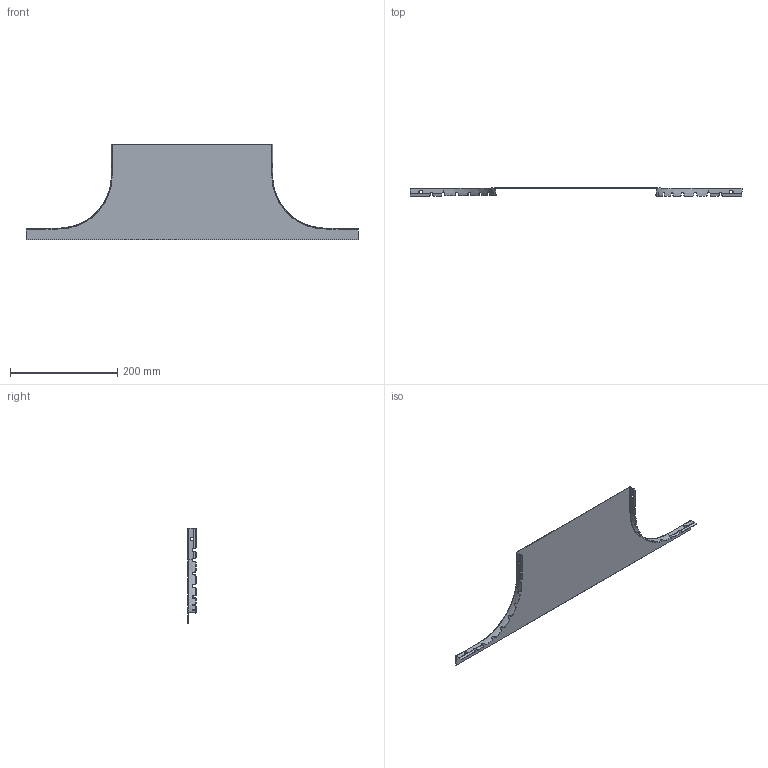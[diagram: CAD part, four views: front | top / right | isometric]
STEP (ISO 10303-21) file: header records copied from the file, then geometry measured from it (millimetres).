
FILE_DESCRIPTION (( 'STEP AP203' ), '1' );
FILE_NAME ('ERE_TAPA AS 300.step', '2023-07-27T18:56:05', ( '' ), ( '' ), 'SwSTEP 2.0', 'SolidWorks 2022', '' );
FILE_SCHEMA (( 'CONFIG_CONTROL_DESIGN' ));
Length unit declared in the file: millimetre
Products named in the file (1): ERE_TAPA AS 300
Bounding box: 620 x 15.01 x 177.8 mm (x, y, z)
Volume: 49879.2 mm3; surface area: 143841.8 mm2
Topology: 1 solids, 1 shells, 310 faces, 812 edges, 496 vertices
Faces by surface type: plane 138, bspline 94, cylinder 74, torus 4
Entity records: 17888 total; most frequent: CARTESIAN_POINT 11078, ORIENTED_EDGE 1624, DIRECTION 1067, EDGE_CURVE 812, VERTEX_POINT 496, AXIS2_PLACEMENT_3D 389, B_SPLINE_CURVE_WITH_KNOTS 351, EDGE_LOOP 310
